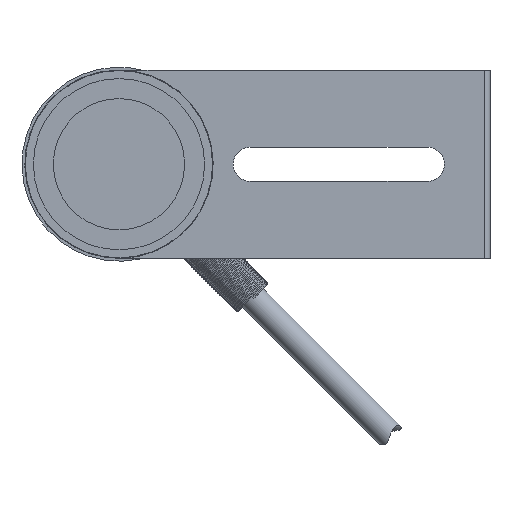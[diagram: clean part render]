
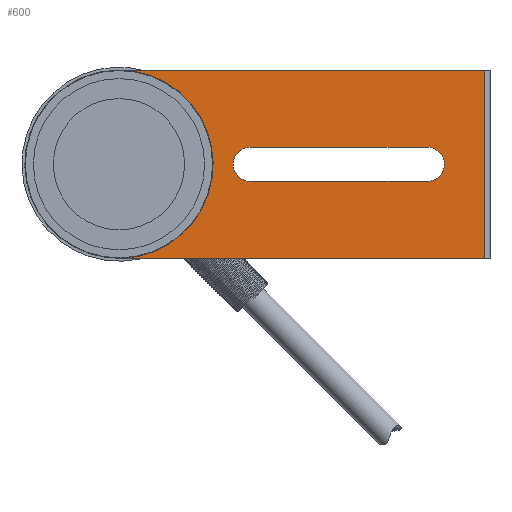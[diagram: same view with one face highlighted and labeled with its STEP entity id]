
A CAD part, front view. The second image highlights one B-rep face of the part: STEP entity #600.
In plain terms, the highlighted planar face has unit normal (0, -1, 0).
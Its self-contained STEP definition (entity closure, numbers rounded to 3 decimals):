
#336 = CARTESIAN_POINT ( 'NONE',  ( -8.151, 11., -3. ) ) ;
#491 = DIRECTION ( 'NONE',  ( 0., 0., 1. ) ) ;
#600 = ADVANCED_FACE ( 'NONE', ( #13334, #23520, #23871 ), #13164, .F. ) ;
#802 = VERTEX_POINT ( 'NONE', #29223 ) ;
#1213 = DIRECTION ( 'NONE',  ( 1., 0., 0. ) ) ;
#1509 = CARTESIAN_POINT ( 'NONE',  ( 22.849, 11., -3. ) ) ;
#1526 = CARTESIAN_POINT ( 'NONE',  ( 32.849, 11., -16.5 ) ) ;
#2455 = CARTESIAN_POINT ( 'NONE',  ( -31.151, 11., 0. ) ) ;
#2582 = LINE ( 'NONE', #13286, #19620 ) ;
#2625 = ORIENTED_EDGE ( 'NONE', *, *, #23348, .T. ) ;
#2819 = DIRECTION ( 'NONE',  ( -1., 0., 0. ) ) ;
#2882 = VERTEX_POINT ( 'NONE', #18718 ) ;
#3417 = CARTESIAN_POINT ( 'NONE',  ( 33.849, 11., 16.5 ) ) ;
#3593 = DIRECTION ( 'NONE',  ( 1., 0., 0. ) ) ;
#4188 = CARTESIAN_POINT ( 'NONE',  ( -31.151, 11., -13.6 ) ) ;
#4434 = ORIENTED_EDGE ( 'NONE', *, *, #19530, .F. ) ;
#4564 = EDGE_CURVE ( 'NONE', #31116, #12804, #14227, .T. ) ;
#4853 = CIRCLE ( 'NONE', #20848, 0.55 ) ;
#4877 = DIRECTION ( 'NONE',  ( 0., 1., 0. ) ) ;
#4921 = DIRECTION ( 'NONE',  ( 0., 0., 1. ) ) ;
#5333 = CARTESIAN_POINT ( 'NONE',  ( 32.849, 11., 16.5 ) ) ;
#6023 = EDGE_LOOP ( 'NONE', ( #14665, #2625, #27266, #29819 ) ) ;
#6245 = EDGE_CURVE ( 'NONE', #2882, #28790, #19742, .T. ) ;
#6303 = EDGE_CURVE ( 'NONE', #21440, #802, #10936, .T. ) ;
#6405 = VERTEX_POINT ( 'NONE', #5333 ) ;
#7163 = CARTESIAN_POINT ( 'NONE',  ( 32.849, 11., 0. ) ) ;
#7174 = CARTESIAN_POINT ( 'NONE',  ( -16.251, 11., 0. ) ) ;
#7875 = VECTOR ( 'NONE', #3593, 1000. ) ;
#8249 = EDGE_CURVE ( 'NONE', #25499, #6405, #15265, .T. ) ;
#9457 = LINE ( 'NONE', #1509, #15030 ) ;
#10180 = DIRECTION ( 'NONE',  ( 0., 0., 1. ) ) ;
#10298 = EDGE_CURVE ( 'NONE', #25499, #11958, #27163, .T. ) ;
#10936 = CIRCLE ( 'NONE', #24163, 3. ) ;
#10978 = CARTESIAN_POINT ( 'NONE',  ( -31.151, 11., 13.6 ) ) ;
#11112 = AXIS2_PLACEMENT_3D ( 'NONE', #20182, #28822, #491 ) ;
#11118 = CARTESIAN_POINT ( 'NONE',  ( 22.849, 11., 3. ) ) ;
#11958 = VERTEX_POINT ( 'NONE', #31339 ) ;
#12112 = DIRECTION ( 'NONE',  ( 0., 0., 1. ) ) ;
#12804 = VERTEX_POINT ( 'NONE', #10978 ) ;
#12928 = DIRECTION ( 'NONE',  ( 0., 0., -1. ) ) ;
#13164 = PLANE ( 'NONE',  #25463 ) ;
#13286 = CARTESIAN_POINT ( 'NONE',  ( -31.151, 11., -16.5 ) ) ;
#13334 = FACE_OUTER_BOUND ( 'NONE', #21273, .T. ) ;
#13702 = LINE ( 'NONE', #11118, #16869 ) ;
#14227 = CIRCLE ( 'NONE', #11112, 13.6 ) ;
#14462 = EDGE_LOOP ( 'NONE', ( #29131 ) ) ;
#14665 = ORIENTED_EDGE ( 'NONE', *, *, #6245, .T. ) ;
#14765 = DIRECTION ( 'NONE',  ( 0., 1., 0. ) ) ;
#15030 = VECTOR ( 'NONE', #27769, 1000. ) ;
#15265 = LINE ( 'NONE', #7163, #16156 ) ;
#15617 = VERTEX_POINT ( 'NONE', #20969 ) ;
#16156 = VECTOR ( 'NONE', #31502, 1000. ) ;
#16375 = EDGE_CURVE ( 'NONE', #15617, #15617, #4853, .T. ) ;
#16869 = VECTOR ( 'NONE', #1213, 1000. ) ;
#17491 = VECTOR ( 'NONE', #2819, 1000. ) ;
#17939 = ORIENTED_EDGE ( 'NONE', *, *, #27202, .F. ) ;
#18718 = CARTESIAN_POINT ( 'NONE',  ( 22.849, 11., 3. ) ) ;
#19281 = ORIENTED_EDGE ( 'NONE', *, *, #10298, .F. ) ;
#19493 = CARTESIAN_POINT ( 'NONE',  ( -31.151, 11., 16.5 ) ) ;
#19530 = EDGE_CURVE ( 'NONE', #12804, #22655, #32846, .T. ) ;
#19620 = VECTOR ( 'NONE', #10180, 1000. ) ;
#19720 = CARTESIAN_POINT ( 'NONE',  ( -31.151, 11., 13.6 ) ) ;
#19742 = CIRCLE ( 'NONE', #25799, 3. ) ;
#20182 = CARTESIAN_POINT ( 'NONE',  ( -31.151, 11., 0. ) ) ;
#20405 = ORIENTED_EDGE ( 'NONE', *, *, #4564, .F. ) ;
#20848 = AXIS2_PLACEMENT_3D ( 'NONE', #7174, #14765, #4921 ) ;
#20969 = CARTESIAN_POINT ( 'NONE',  ( -16.251, 11., 0.55 ) ) ;
#21273 = EDGE_LOOP ( 'NONE', ( #19281, #26371, #17939, #4434, #20405, #27969 ) ) ;
#21440 = VERTEX_POINT ( 'NONE', #336 ) ;
#21546 = LINE ( 'NONE', #3417, #7875 ) ;
#22655 = VERTEX_POINT ( 'NONE', #19493 ) ;
#23348 = EDGE_CURVE ( 'NONE', #28790, #21440, #9457, .T. ) ;
#23459 = DIRECTION ( 'NONE',  ( 0., 1., 0. ) ) ;
#23520 = FACE_BOUND ( 'NONE', #14462, .T. ) ;
#23698 = DIRECTION ( 'NONE',  ( 0., 0., 1. ) ) ;
#23809 = VECTOR ( 'NONE', #12112, 1000. ) ;
#23871 = FACE_BOUND ( 'NONE', #6023, .T. ) ;
#24163 = AXIS2_PLACEMENT_3D ( 'NONE', #33998, #31412, #28992 ) ;
#24408 = CARTESIAN_POINT ( 'NONE',  ( 22.849, 11., -3. ) ) ;
#25463 = AXIS2_PLACEMENT_3D ( 'NONE', #2455, #4877, #23698 ) ;
#25499 = VERTEX_POINT ( 'NONE', #1526 ) ;
#25799 = AXIS2_PLACEMENT_3D ( 'NONE', #31582, #23459, #12928 ) ;
#26371 = ORIENTED_EDGE ( 'NONE', *, *, #8249, .T. ) ;
#27163 = LINE ( 'NONE', #32166, #17491 ) ;
#27202 = EDGE_CURVE ( 'NONE', #22655, #6405, #21546, .T. ) ;
#27266 = ORIENTED_EDGE ( 'NONE', *, *, #6303, .T. ) ;
#27769 = DIRECTION ( 'NONE',  ( -1., 0., 0. ) ) ;
#27969 = ORIENTED_EDGE ( 'NONE', *, *, #32726, .F. ) ;
#28790 = VERTEX_POINT ( 'NONE', #24408 ) ;
#28822 = DIRECTION ( 'NONE',  ( 0., -1., 0. ) ) ;
#28992 = DIRECTION ( 'NONE',  ( 0., 0., 1. ) ) ;
#29056 = EDGE_CURVE ( 'NONE', #802, #2882, #13702, .T. ) ;
#29131 = ORIENTED_EDGE ( 'NONE', *, *, #16375, .T. ) ;
#29223 = CARTESIAN_POINT ( 'NONE',  ( -8.151, 11., 3. ) ) ;
#29819 = ORIENTED_EDGE ( 'NONE', *, *, #29056, .T. ) ;
#31116 = VERTEX_POINT ( 'NONE', #4188 ) ;
#31339 = CARTESIAN_POINT ( 'NONE',  ( -31.151, 11., -16.5 ) ) ;
#31412 = DIRECTION ( 'NONE',  ( 0., 1., 0. ) ) ;
#31502 = DIRECTION ( 'NONE',  ( 0., 0., 1. ) ) ;
#31582 = CARTESIAN_POINT ( 'NONE',  ( 22.849, 11., 0. ) ) ;
#32166 = CARTESIAN_POINT ( 'NONE',  ( 33.849, 11., -16.5 ) ) ;
#32726 = EDGE_CURVE ( 'NONE', #11958, #31116, #2582, .T. ) ;
#32846 = LINE ( 'NONE', #19720, #23809 ) ;
#33998 = CARTESIAN_POINT ( 'NONE',  ( -8.151, 11., 0. ) ) ;
